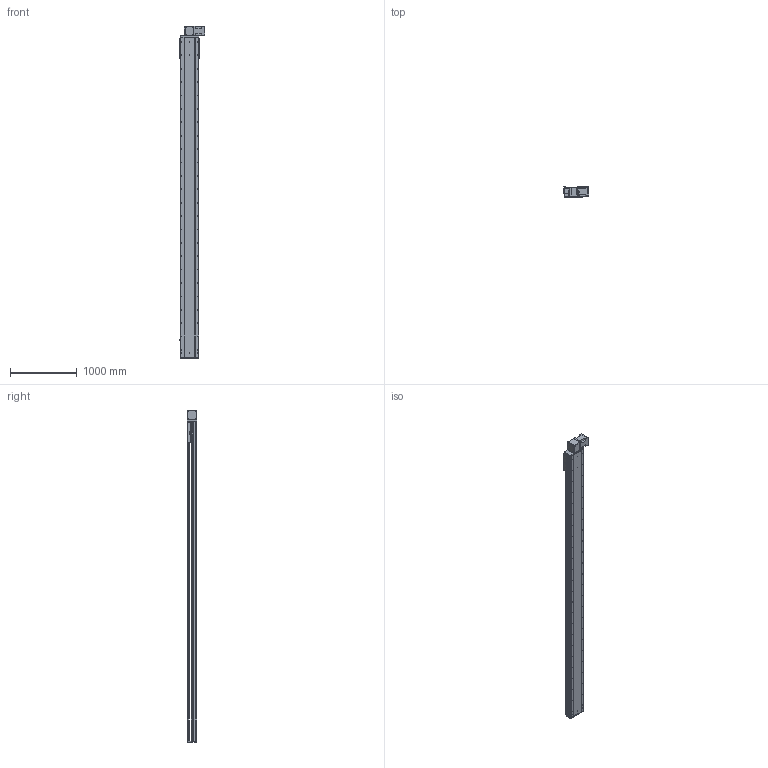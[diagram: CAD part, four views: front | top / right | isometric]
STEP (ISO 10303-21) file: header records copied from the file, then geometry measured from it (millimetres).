
FILE_DESCRIPTION (( 'STEP AP214' ), '1' );
FILE_NAME ('RTB28S-XX-4350-BL-M100-XX-C4.STEP', '2025-12-22T02:45:30', ( '' ), ( '' ), 'SwSTEP 2.0', 'SolidWorks 2018', '' );
FILE_SCHEMA (( 'AUTOMOTIVE_DESIGN' ));
Length unit declared in the file: millimetre
Products named in the file (4): RTB28S-GY-004^RTB28S-XX-XX-BL-M100-XX-C4; RTB28S-GY-008^RTB28S-XX-XX-BL-M100-XX-C4; RTB28S-XX-4350-BL-M100-XX-C4; RTB28S-GY-011^RTB28S-XX-XX-BL-M100-XX-C4
Assembly tree (3 placements, depth 2):
  RTB28S-XX-4350-BL-M100-XX-C4
    RTB28S-GY-011^RTB28S-XX-XX-BL-M100-XX-C4
    RTB28S-GY-004^RTB28S-XX-XX-BL-M100-XX-C4
    RTB28S-GY-008^RTB28S-XX-XX-BL-M100-XX-C4
Bounding box: 380.7 x 145 x 4957 mm (x, y, z)
Volume: 82364035.2 mm3; surface area: 7623515.7 mm2
Topology: 3 solids, 4 shells, 958 faces, 2598 edges, 1668 vertices
Faces by surface type: cylinder 495, plane 379, cone 80, torus 4
Entity records: 37775 total; most frequent: CARTESIAN_POINT 7552, DIRECTION 5544, ORIENTED_EDGE 5132, EDGE_CURVE 2566, AXIS2_PLACEMENT_3D 2072, VERTEX_POINT 1668, VECTOR 1400, LINE 1400
